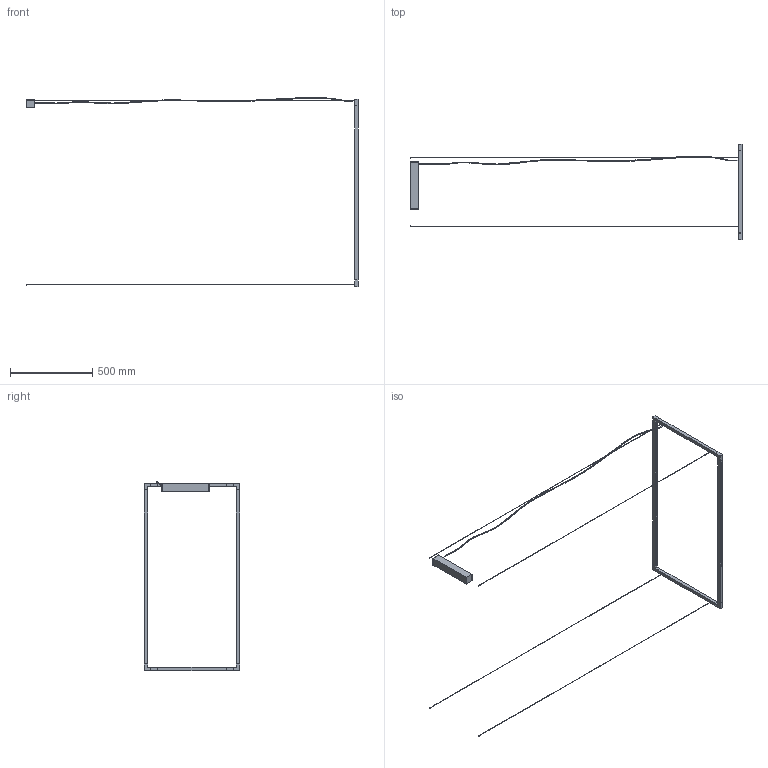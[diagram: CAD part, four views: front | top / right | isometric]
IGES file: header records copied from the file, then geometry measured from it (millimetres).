
Start section: SolidWorks IGES file using analytic representation for surfaces
Global section: file name: C:\Users\tungari.NEMOLIGHTING\Desktop\3D\PENDANT\3D_SPIGOLO_HORIZONTAL_PENDANT\spigolo_horizontal_pendant_ok_last_marti\3D_SPIGOLO_H_PENDANT.IGS; native system: SolidWorks 2016; preprocessor: SolidWorks 2016; author: tungari; date: 180409.154352; units: millimetre
Bounding box: 2024 x 582 x 1152.24 mm (x, y, z)
Surface area: 492745 mm2 (no closed solid volume)
Topology: 0 solids, 0 shells, 163 faces, 1272 edges, 1272 vertices
Faces by surface type: bspline 137, revolution 26
